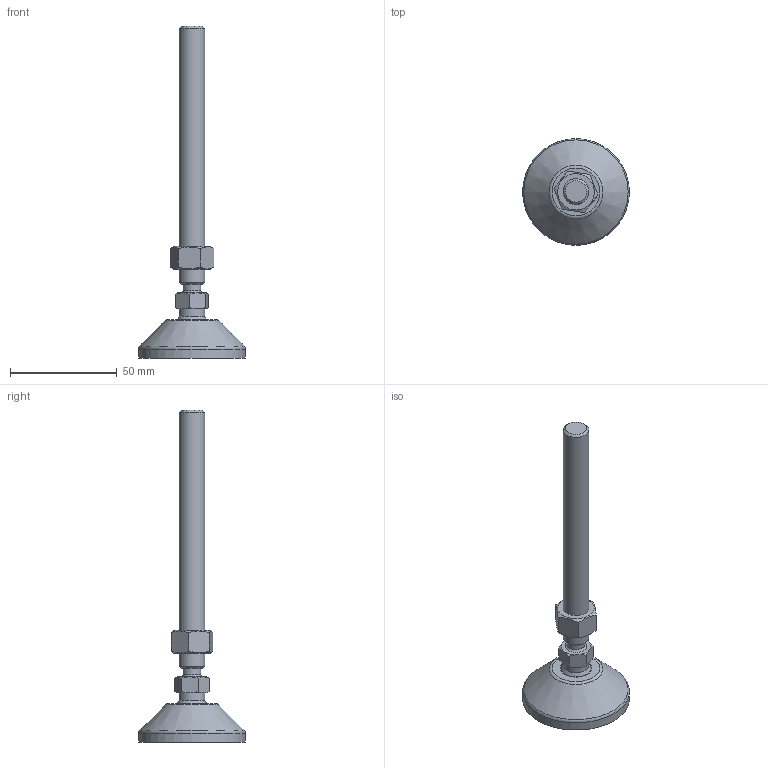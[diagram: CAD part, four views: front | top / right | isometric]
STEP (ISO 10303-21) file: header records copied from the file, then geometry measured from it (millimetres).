
FILE_DESCRIPTION(('STEP AP203'), '1');
FILE_NAME('栖闉罻', '', ('UNSPECIFIED'), ('UNSPECIFIED'), 'C3D Converter', 'C3D Toolkit', '');
FILE_SCHEMA(('CONFIG_CONTROL_DESIGN'));
Length unit declared in the file: millimetre
Products named in the file (4): A00015.1050; A00020.112125
Assembly tree (3 placements, depth 3):
  (unnamed)
    A00015.1050
    A00020.112125
      (unnamed)
Bounding box: 50 x 50 x 155.48 mm (x, y, z)
Volume: 34537.8 mm3; surface area: 15091.4 mm2
Topology: 3 solids, 3 shells, 189 faces, 500 edges, 330 vertices
Faces by surface type: plane 87, cylinder 50, torus 30, cone 20, sphere 2
Full cylindrical faces by diameter (mm): 4 x8, 8.3 x1, 10.647 x1, 12 x2, 14.3 x1, 15 x2, 15.5 x1, 39 x1, 50 x1
Entity records: 9755 total; most frequent: CARTESIAN_POINT 3487, DIRECTION 956, ORIENTED_EDGE 930, EDGE_CURVE 465, AXIS2_PLACEMENT_3D 400, VERTEX_POINT 329, EDGE_LOOP 238, CIRCLE 207
